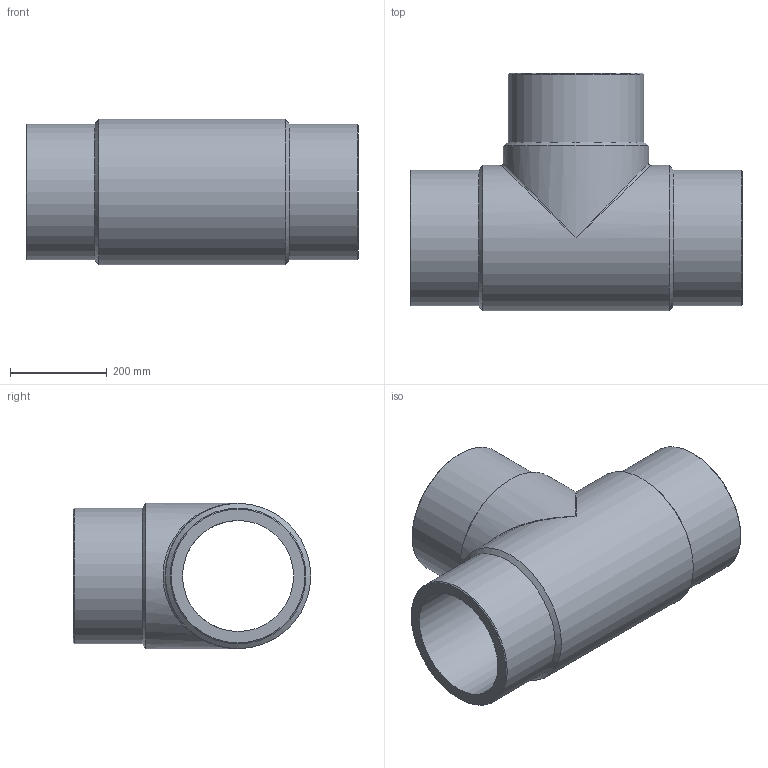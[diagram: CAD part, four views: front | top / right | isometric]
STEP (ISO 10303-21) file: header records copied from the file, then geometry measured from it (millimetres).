
FILE_DESCRIPTION(/* description */ ('Unknown'),/* implementation_level */ '2;1');
FILE_NAME(/* name */ 'TP280C',/* time_stamp */ '2021-08-06T12:40:16+02:00',/* author */ ('Unknown'),/* organization */ ('Unknown'),/* preprocessor_version */ 'ST-DEVELOPER v16.7',/* originating_system */ 'Solid Edge',/* authorisation */ 'Unknown');
FILE_SCHEMA (('AUTOMOTIVE_DESIGN {1 0 10303 214 3 1 1}'));
Length unit declared in the file: millimetre
Products named in the file (1): TP280C
Bounding box: 685 x 490 x 300 mm (x, y, z)
Volume: 21181038.4 mm3; surface area: 1461690.5 mm2
Topology: 1 solids, 1 shells, 18 faces, 44 edges, 23 vertices
Faces by surface type: cylinder 7, cone 6, plane 3, bspline 2
Full cylindrical faces by diameter (mm): 229.2 x2, 280 x3, 300 x2
Entity records: 528 total; most frequent: CARTESIAN_POINT 171, DIRECTION 76, ORIENTED_EDGE 42, AXIS2_PLACEMENT_3D 38, EDGE_LOOP 36, FACE_BOUND 36, EDGE_CURVE 21, VERTEX_POINT 19
